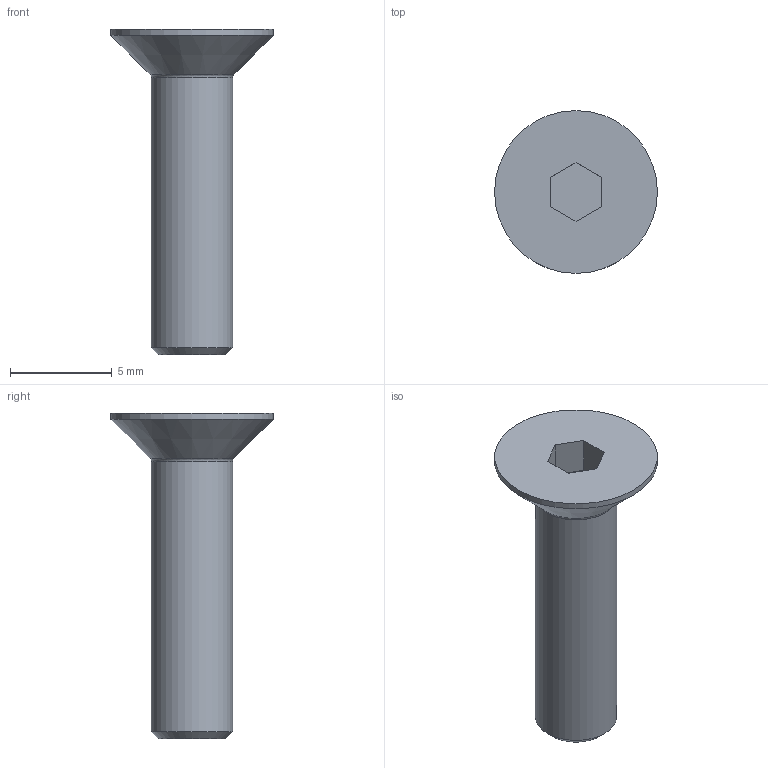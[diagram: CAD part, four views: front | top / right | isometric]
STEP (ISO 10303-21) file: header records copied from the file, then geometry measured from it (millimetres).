
FILE_DESCRIPTION((''),'2;1');
FILE_NAME('C:\Documents and Settings\Administrator\My Documents\Andys Backup Data\ANDY''S INVENTOR\INVENTOR LIBRARIES\MINITEC INVENTOR LIBRARIES\FASTENING ELEMENTS\SCREWS COUNTERSUNK\step\21.1501 M4X16 CSUNK.stp','2010-06-30T10:37:39',('Administrator'),(''),'Autodesk Inventor 2009','Autodesk Inventor 2009','');
FILE_SCHEMA(('CONFIG_CONTROL_DESIGN'));
Length unit declared in the file: millimetre
Products named in the file (1): 21.1501 M4x16 C'SUNK
Bounding box: 8 x 8 x 16 mm (x, y, z)
Volume: 235.4 mm3; surface area: 308.6 mm2
Topology: 1 solids, 1 shells, 14 faces, 29 edges, 18 vertices
Faces by surface type: plane 9, cone 2, cylinder 2, bspline 1
Full cylindrical faces by diameter (mm): 4 x1, 8 x1
Entity records: 399 total; most frequent: CARTESIAN_POINT 101, DIRECTION 58, ORIENTED_EDGE 48, EDGE_CURVE 24, AXIS2_PLACEMENT_3D 20, EDGE_LOOP 20, VERTEX_POINT 18, VECTOR 18
